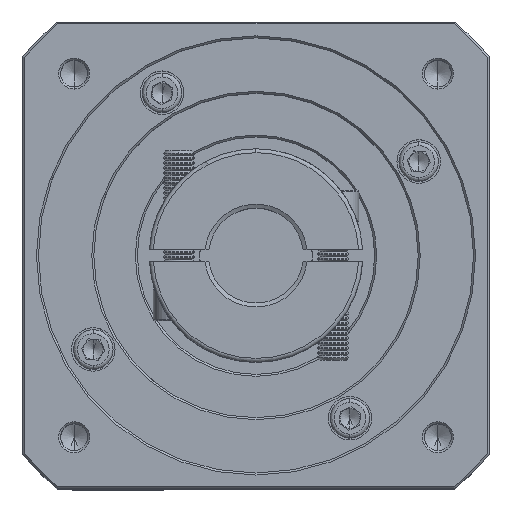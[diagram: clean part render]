
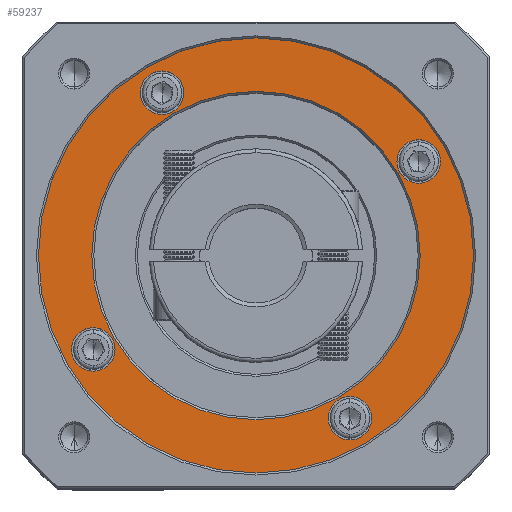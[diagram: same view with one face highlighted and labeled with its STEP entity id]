
A CAD part, top view. The second image highlights one B-rep face of the part: STEP entity #59237.
In plain terms, the highlighted planar face has unit normal (0, 0, 1).
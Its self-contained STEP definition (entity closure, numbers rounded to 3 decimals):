
#640 = EDGE_LOOP ( 'NONE', ( #9651, #127710 ) ) ;
#2058 = AXIS2_PLACEMENT_3D ( 'NONE', #95358, #65299, #4447 ) ;
#2845 = VERTEX_POINT ( 'NONE', #102109 ) ;
#4439 = CIRCLE ( 'NONE', #53983, 5.5 ) ;
#4447 = DIRECTION ( 'NONE',  ( 0., 1., 0. ) ) ;
#4756 = CIRCLE ( 'NONE', #15284, 5.5 ) ;
#4985 = AXIS2_PLACEMENT_3D ( 'NONE', #23250, #83775, #54107 ) ;
#6690 = CARTESIAN_POINT ( 'NONE',  ( 11.546, 32.723, 0.694 ) ) ;
#8662 = VERTEX_POINT ( 'NONE', #131832 ) ;
#9651 = ORIENTED_EDGE ( 'NONE', *, *, #86953, .T. ) ;
#10762 = CIRCLE ( 'NONE', #41400, 5.5 ) ;
#10971 = CARTESIAN_POINT ( 'NONE',  ( 11.546, 38.223, 0.694 ) ) ;
#12704 = CIRCLE ( 'NONE', #2058, 5.5 ) ;
#13244 = VERTEX_POINT ( 'NONE', #6690 ) ;
#13358 = AXIS2_PLACEMENT_3D ( 'NONE', #99439, #37146, #46980 ) ;
#15284 = AXIS2_PLACEMENT_3D ( 'NONE', #66654, #67548, #15637 ) ;
#15637 = DIRECTION ( 'NONE',  ( 0., 1., 0. ) ) ;
#16813 = ORIENTED_EDGE ( 'NONE', *, *, #96168, .T. ) ;
#17836 = VERTEX_POINT ( 'NONE', #96909 ) ;
#18552 = EDGE_CURVE ( 'NONE', #68260, #13244, #12704, .T. ) ;
#20432 = ORIENTED_EDGE ( 'NONE', *, *, #102988, .T. ) ;
#20508 = CIRCLE ( 'NONE', #54228, 41.5 ) ;
#21521 = VERTEX_POINT ( 'NONE', #73811 ) ;
#22199 = CARTESIAN_POINT ( 'NONE',  ( 11.546, 43.723, 0.694 ) ) ;
#23250 = CARTESIAN_POINT ( 'NONE',  ( 52.682, 61.973, 0.694 ) ) ;
#23612 = CARTESIAN_POINT ( 'NONE',  ( 28.932, 103.11, 0.694 ) ) ;
#27172 = DIRECTION ( 'NONE',  ( 0., 0., 1. ) ) ;
#28867 = CARTESIAN_POINT ( 'NONE',  ( 52.682, 61.973, 0.694 ) ) ;
#29389 = EDGE_CURVE ( 'NONE', #36954, #61719, #10762, .T. ) ;
#29909 = VERTEX_POINT ( 'NONE', #118262 ) ;
#31520 = DIRECTION ( 'NONE',  ( 0., 0., -1. ) ) ;
#31872 = EDGE_LOOP ( 'NONE', ( #94842, #91385 ) ) ;
#32496 = EDGE_CURVE ( 'NONE', #21521, #17836, #77228, .T. ) ;
#33623 = AXIS2_PLACEMENT_3D ( 'NONE', #93479, #42775, #62981 ) ;
#34658 = AXIS2_PLACEMENT_3D ( 'NONE', #110904, #101463, #49411 ) ;
#36954 = VERTEX_POINT ( 'NONE', #131951 ) ;
#37146 = DIRECTION ( 'NONE',  ( 0., 0., -1. ) ) ;
#37820 = DIRECTION ( 'NONE',  ( 0., 0., -1. ) ) ;
#39721 = AXIS2_PLACEMENT_3D ( 'NONE', #119445, #37820, #68348 ) ;
#39842 = EDGE_CURVE ( 'NONE', #8662, #43640, #54804, .T. ) ;
#39980 = EDGE_CURVE ( 'NONE', #61719, #36954, #122289, .T. ) ;
#40221 = EDGE_CURVE ( 'NONE', #43640, #8662, #40643, .T. ) ;
#40643 = CIRCLE ( 'NONE', #13358, 5.5 ) ;
#41400 = AXIS2_PLACEMENT_3D ( 'NONE', #130920, #60091, #58306 ) ;
#41692 = EDGE_CURVE ( 'NONE', #2845, #105397, #4756, .T. ) ;
#42775 = DIRECTION ( 'NONE',  ( 0., 0., 1. ) ) ;
#43640 = VERTEX_POINT ( 'NONE', #117653 ) ;
#46695 = VERTEX_POINT ( 'NONE', #81570 ) ;
#46980 = DIRECTION ( 'NONE',  ( 0., 1., 0. ) ) ;
#49052 = EDGE_LOOP ( 'NONE', ( #121143, #20432 ) ) ;
#49411 = DIRECTION ( 'NONE',  ( 0., 1., 0. ) ) ;
#51611 = DIRECTION ( 'NONE',  ( 0., 1., 0. ) ) ;
#53983 = AXIS2_PLACEMENT_3D ( 'NONE', #23612, #55377, #125383 ) ;
#54107 = DIRECTION ( 'NONE',  ( 1., 0., 0. ) ) ;
#54228 = AXIS2_PLACEMENT_3D ( 'NONE', #70805, #91402, #122811 ) ;
#54804 = CIRCLE ( 'NONE', #39721, 5.5 ) ;
#55145 = FACE_BOUND ( 'NONE', #49052, .T. ) ;
#55377 = DIRECTION ( 'NONE',  ( 0., 0., -1. ) ) ;
#56266 = CARTESIAN_POINT ( 'NONE',  ( 93.818, 91.223, 0.694 ) ) ;
#58306 = DIRECTION ( 'NONE',  ( 0., 1., 0. ) ) ;
#59237 = ADVANCED_FACE ( 'NONE', ( #95329, #124173, #101761, #113007, #55145, #88878 ), #78172, .T. ) ;
#60091 = DIRECTION ( 'NONE',  ( 0., 0., -1. ) ) ;
#61719 = VERTEX_POINT ( 'NONE', #56266 ) ;
#62981 = DIRECTION ( 'NONE',  ( 0., 1., 0. ) ) ;
#65299 = DIRECTION ( 'NONE',  ( 0., 0., -1. ) ) ;
#66654 = CARTESIAN_POINT ( 'NONE',  ( 28.932, 103.11, 0.694 ) ) ;
#67548 = DIRECTION ( 'NONE',  ( 0., 0., -1. ) ) ;
#68260 = VERTEX_POINT ( 'NONE', #22199 ) ;
#68348 = DIRECTION ( 'NONE',  ( 0., 1., 0. ) ) ;
#69720 = AXIS2_PLACEMENT_3D ( 'NONE', #28867, #91146, #79977 ) ;
#70805 = CARTESIAN_POINT ( 'NONE',  ( 52.682, 61.973, 0.694 ) ) ;
#73811 = CARTESIAN_POINT ( 'NONE',  ( 11.182, 61.973, 0.694 ) ) ;
#77228 = CIRCLE ( 'NONE', #4985, 41.5 ) ;
#78172 = PLANE ( 'NONE',  #69720 ) ;
#79977 = DIRECTION ( 'NONE',  ( 0., 1., 0. ) ) ;
#81570 = CARTESIAN_POINT ( 'NONE',  ( 52.682, 116.973, 0.694 ) ) ;
#83141 = CIRCLE ( 'NONE', #33623, 55. ) ;
#83775 = DIRECTION ( 'NONE',  ( 0., 0., -1. ) ) ;
#86953 = EDGE_CURVE ( 'NONE', #17836, #21521, #20508, .T. ) ;
#88449 = AXIS2_PLACEMENT_3D ( 'NONE', #10971, #31520, #51611 ) ;
#88516 = CIRCLE ( 'NONE', #88449, 5.5 ) ;
#88878 = FACE_BOUND ( 'NONE', #131779, .T. ) ;
#91146 = DIRECTION ( 'NONE',  ( 0., 0., 1. ) ) ;
#91385 = ORIENTED_EDGE ( 'NONE', *, *, #41692, .T. ) ;
#91402 = DIRECTION ( 'NONE',  ( 0., 0., -1. ) ) ;
#91796 = EDGE_LOOP ( 'NONE', ( #113414, #130815 ) ) ;
#93479 = CARTESIAN_POINT ( 'NONE',  ( 52.682, 61.973, 0.694 ) ) ;
#94842 = ORIENTED_EDGE ( 'NONE', *, *, #121365, .T. ) ;
#95329 = FACE_OUTER_BOUND ( 'NONE', #111328, .T. ) ;
#95358 = CARTESIAN_POINT ( 'NONE',  ( 11.546, 38.223, 0.694 ) ) ;
#96168 = EDGE_CURVE ( 'NONE', #46695, #29909, #130573, .T. ) ;
#96909 = CARTESIAN_POINT ( 'NONE',  ( 94.182, 61.973, 0.694 ) ) ;
#97569 = CARTESIAN_POINT ( 'NONE',  ( 52.682, 61.973, 0.694 ) ) ;
#99439 = CARTESIAN_POINT ( 'NONE',  ( 76.432, 20.837, 0.694 ) ) ;
#101463 = DIRECTION ( 'NONE',  ( 0., 0., -1. ) ) ;
#101761 = FACE_BOUND ( 'NONE', #31872, .T. ) ;
#102109 = CARTESIAN_POINT ( 'NONE',  ( 28.932, 97.61, 0.694 ) ) ;
#102988 = EDGE_CURVE ( 'NONE', #13244, #68260, #88516, .T. ) ;
#105397 = VERTEX_POINT ( 'NONE', #132711 ) ;
#108096 = AXIS2_PLACEMENT_3D ( 'NONE', #97569, #27172, #119999 ) ;
#110904 = CARTESIAN_POINT ( 'NONE',  ( 93.818, 85.723, 0.694 ) ) ;
#111328 = EDGE_LOOP ( 'NONE', ( #16813, #111417 ) ) ;
#111417 = ORIENTED_EDGE ( 'NONE', *, *, #111483, .T. ) ;
#111483 = EDGE_CURVE ( 'NONE', #29909, #46695, #83141, .T. ) ;
#113007 = FACE_BOUND ( 'NONE', #91796, .T. ) ;
#113414 = ORIENTED_EDGE ( 'NONE', *, *, #39980, .T. ) ;
#116756 = ORIENTED_EDGE ( 'NONE', *, *, #40221, .T. ) ;
#117653 = CARTESIAN_POINT ( 'NONE',  ( 76.432, 15.337, 0.694 ) ) ;
#118262 = CARTESIAN_POINT ( 'NONE',  ( 52.682, 6.973, 0.694 ) ) ;
#119445 = CARTESIAN_POINT ( 'NONE',  ( 76.432, 20.837, 0.694 ) ) ;
#119999 = DIRECTION ( 'NONE',  ( 0., 1., 0. ) ) ;
#121143 = ORIENTED_EDGE ( 'NONE', *, *, #18552, .T. ) ;
#121365 = EDGE_CURVE ( 'NONE', #105397, #2845, #4439, .T. ) ;
#122289 = CIRCLE ( 'NONE', #34658, 5.5 ) ;
#122811 = DIRECTION ( 'NONE',  ( 1., 0., 0. ) ) ;
#124173 = FACE_BOUND ( 'NONE', #640, .T. ) ;
#125383 = DIRECTION ( 'NONE',  ( 0., 1., 0. ) ) ;
#125927 = ORIENTED_EDGE ( 'NONE', *, *, #39842, .T. ) ;
#127710 = ORIENTED_EDGE ( 'NONE', *, *, #32496, .T. ) ;
#130573 = CIRCLE ( 'NONE', #108096, 55. ) ;
#130815 = ORIENTED_EDGE ( 'NONE', *, *, #29389, .T. ) ;
#130920 = CARTESIAN_POINT ( 'NONE',  ( 93.818, 85.723, 0.694 ) ) ;
#131779 = EDGE_LOOP ( 'NONE', ( #125927, #116756 ) ) ;
#131832 = CARTESIAN_POINT ( 'NONE',  ( 76.432, 26.337, 0.694 ) ) ;
#131951 = CARTESIAN_POINT ( 'NONE',  ( 93.818, 80.223, 0.694 ) ) ;
#132711 = CARTESIAN_POINT ( 'NONE',  ( 28.932, 108.61, 0.694 ) ) ;
